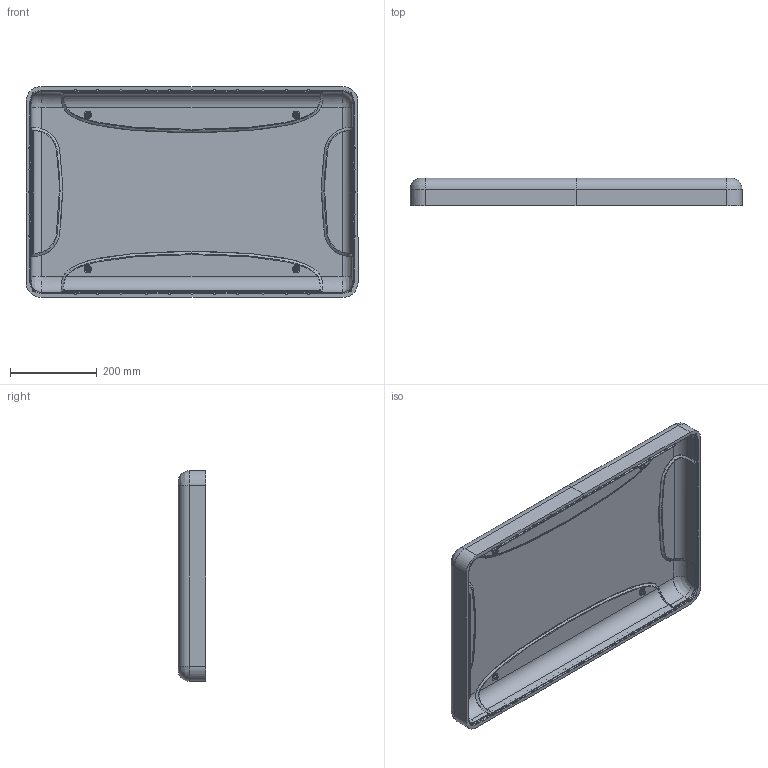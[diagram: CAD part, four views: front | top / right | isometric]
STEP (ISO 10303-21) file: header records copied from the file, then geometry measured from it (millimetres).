
FILE_DESCRIPTION (( 'STEP AP203' ), '1' );
FILE_NAME ('965_Top_INNER_SURFACE.STEP', '2019-07-23T15:51:54', ( '' ), ( '' ), 'SwSTEP 2.0', 'SolidWorks 2018', '' );
FILE_SCHEMA (( 'CONFIG_CONTROL_DESIGN' ));
Products named in the file (1): 965_Top_INNER_SURFACE
Bounding box: 766.04 x 63.5 x 486.64 mm (x, y, z)
Volume: 6312171.5 mm3; surface area: 988766.3 mm2
Topology: 1 solids, 1 shells, 1153 faces, 2929 edges, 1894 vertices
Faces by surface type: plane 469, bspline 362, cylinder 194, cone 96, torus 32
Entity records: 84818 total; most frequent: CARTESIAN_POINT 60223, ORIENTED_EDGE 5858, DIRECTION 3931, EDGE_CURVE 2929, VERTEX_POINT 1894, AXIS2_PLACEMENT_3D 1340, EDGE_LOOP 1269, LINE 1251
